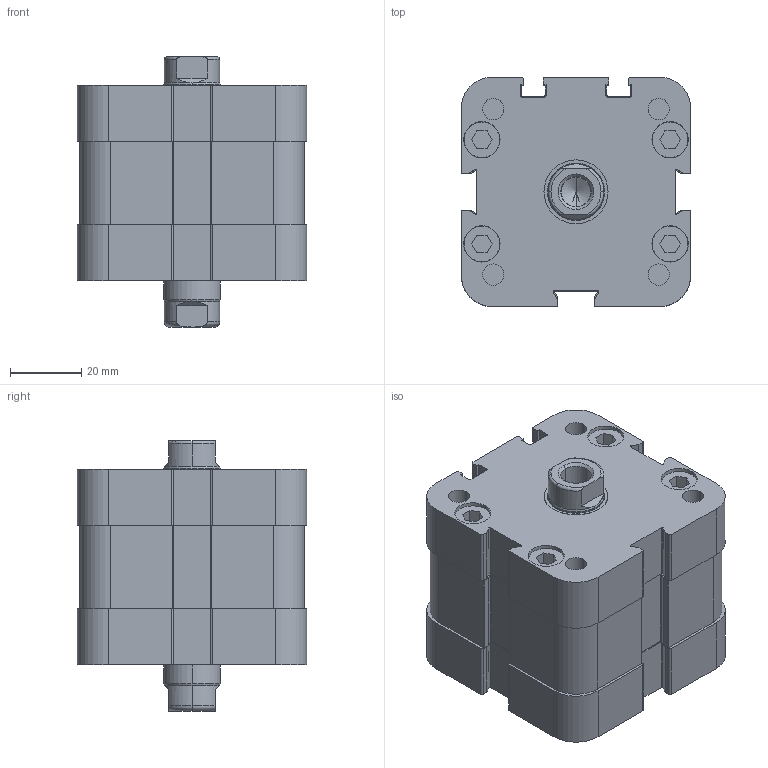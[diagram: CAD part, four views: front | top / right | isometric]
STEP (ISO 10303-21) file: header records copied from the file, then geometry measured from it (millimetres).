
FILE_DESCRIPTION((''),'2;1');
FILE_NAME('P11M40500005.stp','2010-02-25T21:39:43',('B. Petkovic 2010'),('AZ PNEUMATICA S.r.l.'),'Mechanical Desktop 2006','Mechanical Desktop 2006','Via Marco Biagi 6, I-20020 Misinto(MI) Italy, azpneu@tin.it');
FILE_SCHEMA(('CONFIG_CONTROL_DESIGN'));
Length unit declared in the file: millimetre
Products named in the file (2): P11M40500005; COMPACT CILINDRI
Assembly tree (1 placements, depth 2):
  P11M40500005
    COMPACT CILINDRI
Bounding box: 64.5 x 64.5 x 76 mm (x, y, z)
Volume: 204314.1 mm3; surface area: 33171 mm2
Topology: 1 solids, 1 shells, 426 faces, 1094 edges, 710 vertices
Faces by surface type: plane 246, cylinder 162, cone 12, torus 6
Entity records: 13201 total; most frequent: CARTESIAN_POINT 2396, DIRECTION 2322, ORIENTED_EDGE 2180, EDGE_CURVE 1090, AXIS2_PLACEMENT_3D 810, VERTEX_POINT 710, VECTOR 702, LINE 702
